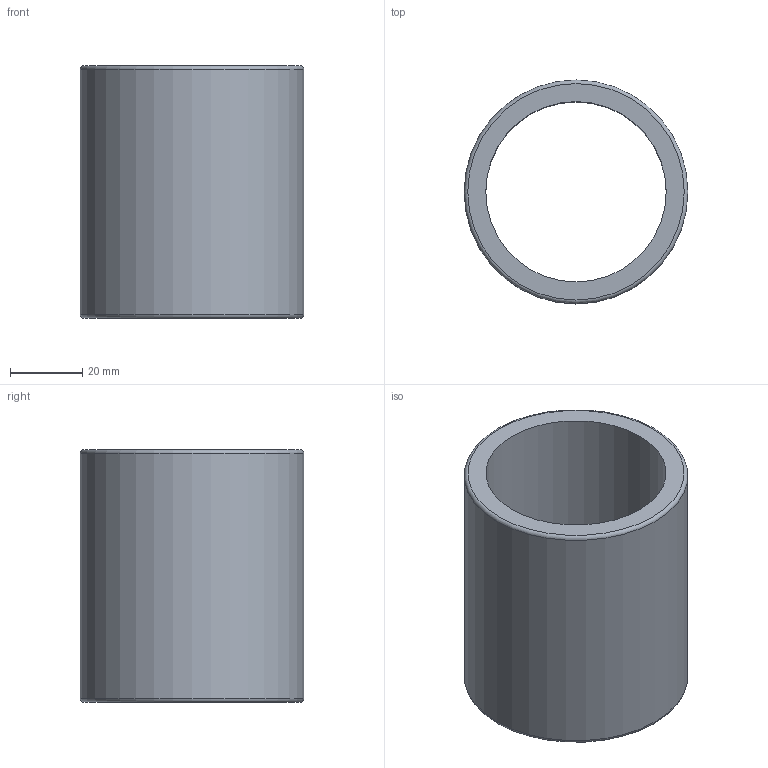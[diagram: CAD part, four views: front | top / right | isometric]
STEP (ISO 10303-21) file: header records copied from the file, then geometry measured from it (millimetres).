
FILE_DESCRIPTION(('STEP AP203'),'1');
FILE_NAME('//192.168.1.1/share/s-4 技術開発/s-4-4_CAD/s-4-4-3_見直し済み/007 修正済み/CB/CB_TOP/CB-50.step','2022-02-16T00:58:50',(' '),(' '),'Spatial InterOp 3D',' ',' ');
FILE_SCHEMA(('CONFIG_CONTROL_DESIGN'));
Length unit declared in the file: millimetre
Products named in the file (1): 1
Bounding box: 62 x 62 x 70 mm (x, y, z)
Volume: 73807.3 mm3; surface area: 26573.1 mm2
Topology: 1 solids, 1 shells, 6 faces, 10 edges, 6 vertices
Faces by surface type: plane 2, cylinder 2, torus 2
Full cylindrical faces by diameter (mm): 50 x1, 62 x1
Entity records: 172 total; most frequent: DIRECTION 26, CARTESIAN_POINT 19, AXIS2_PLACEMENT_3D 13, EDGE_LOOP 12, ORIENTED_EDGE 12, FACE_OUTER_BOUND 10, ADVANCED_FACE 6, EDGE_CURVE 6
